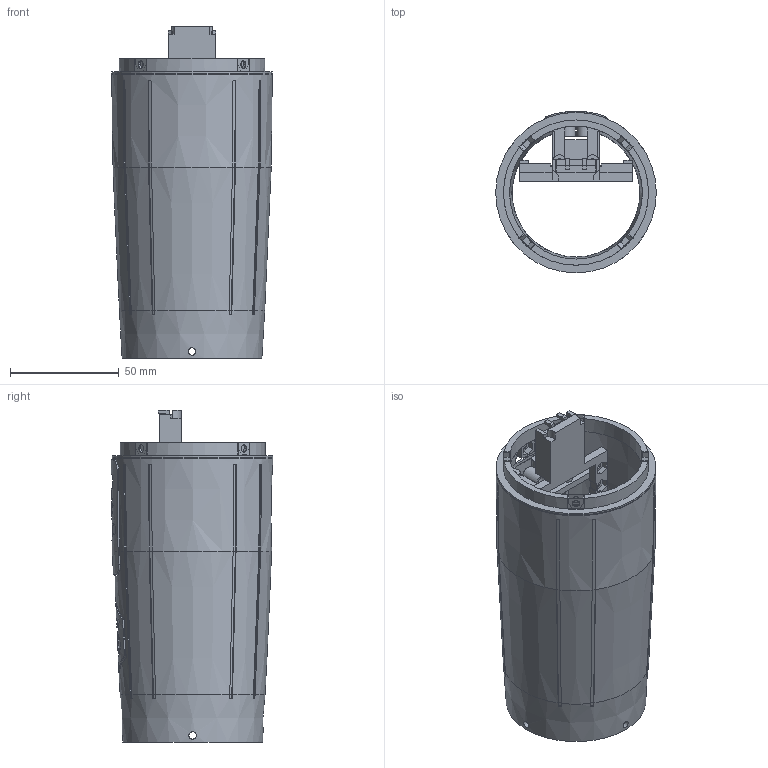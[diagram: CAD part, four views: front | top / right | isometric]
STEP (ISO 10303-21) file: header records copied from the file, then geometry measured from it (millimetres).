
FILE_DESCRIPTION(('FreeCAD Model'),'2;1');
FILE_NAME('Open CASCADE Shape Model','2026-09-20T12:19:50',('FreeCAD'),( 'FreeCAD'),'Open CASCADE STEP processor 7.8','FreeCAD','Unknown');
FILE_SCHEMA(('AUTOMOTIVE_DESIGN { 1 0 10303 214 1 1 1 1 }'));
Length unit declared in the file: millimetre
Products named in the file (1): Open CASCADE STEP translator 7.8 2
Bounding box: 74 x 74.56 x 153 mm (x, y, z)
Volume: 109519.1 mm3; surface area: 86063.3 mm2
Topology: 3 solids, 3 shells, 720 faces, 2088 edges, 1407 vertices
Faces by surface type: plane 553, cylinder 107, cone 60
Full cylindrical faces by diameter (mm): 1.7 x6, 3.2 x2, 3.4 x24, 5 x2, 5.4 x2, 5.8 x2, 7.4 x2, 10.4 x1, 61.3 x1, 66.9 x1, 73.982 x1
Entity records: 29879 total; most frequent: CARTESIAN_POINT 10180, ORIENTED_EDGE 4176, DIRECTION 4106, EDGE_CURVE 2088, AXIS2_PLACEMENT_3D 1420, VERTEX_POINT 1407, LINE 1266, VECTOR 1266
